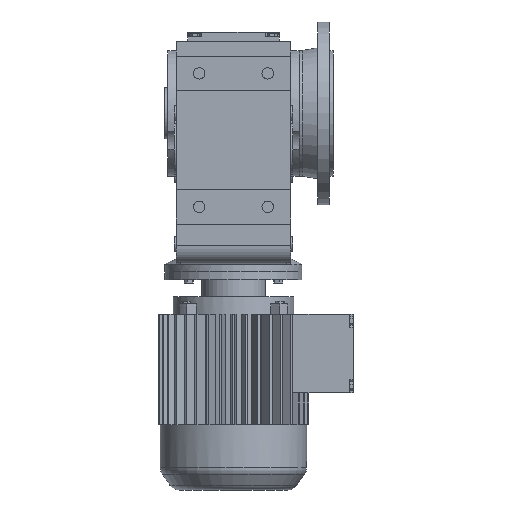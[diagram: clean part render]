
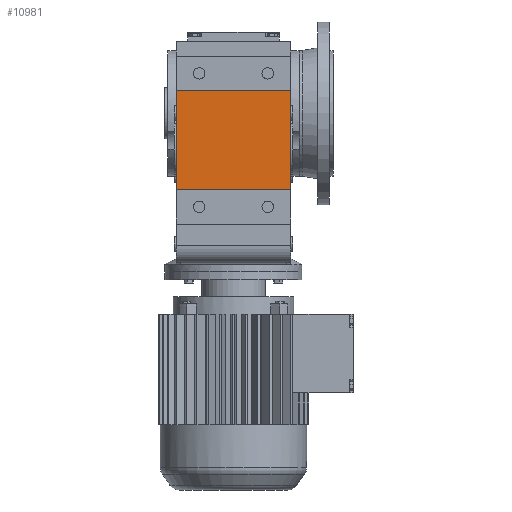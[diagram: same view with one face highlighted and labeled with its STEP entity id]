
A CAD part, front view. The second image highlights one B-rep face of the part: STEP entity #10981.
In plain terms, the highlighted planar face has unit normal (0, -1, 0).
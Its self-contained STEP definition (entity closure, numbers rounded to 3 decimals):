
#854 = PLANE('',#855);
#855 = AXIS2_PLACEMENT_3D('',#856,#857,#858);
#856 = CARTESIAN_POINT('',(-50.,-80.5,-116.05));
#857 = DIRECTION('',(-1.,0.,0.));
#858 = DIRECTION('',(0.,0.,1.));
#5276 = VERTEX_POINT('',#5277);
#5277 = CARTESIAN_POINT('',(-50.,-96.5,-67.));
#5291 = PLANE('',#5292);
#5292 = AXIS2_PLACEMENT_3D('',#5293,#5294,#5295);
#5293 = CARTESIAN_POINT('',(-50.,-96.5,-67.));
#5294 = DIRECTION('',(0.,0.,1.));
#5295 = DIRECTION('',(1.,0.,0.));
#5303 = EDGE_CURVE('',#5304,#5276,#5306,.T.);
#5304 = VERTEX_POINT('',#5305);
#5305 = CARTESIAN_POINT('',(-50.,-96.5,20.));
#5306 = SURFACE_CURVE('',#5307,(#5311,#5318),.PCURVE_S1.);
#5307 = LINE('',#5308,#5309);
#5308 = CARTESIAN_POINT('',(-50.,-96.5,20.));
#5309 = VECTOR('',#5310,1.);
#5310 = DIRECTION('',(0.,0.,-1.));
#5311 = PCURVE('',#854,#5312);
#5312 = DEFINITIONAL_REPRESENTATION('',(#5313),#5317);
#5313 = LINE('',#5314,#5315);
#5314 = CARTESIAN_POINT('',(136.05,-16.));
#5315 = VECTOR('',#5316,1.);
#5316 = DIRECTION('',(-1.,0.));
#5317 = ( GEOMETRIC_REPRESENTATION_CONTEXT(2) 
PARAMETRIC_REPRESENTATION_CONTEXT() REPRESENTATION_CONTEXT('2D SPACE',''
  ) );
#5318 = PCURVE('',#5319,#5324);
#5319 = PLANE('',#5320);
#5320 = AXIS2_PLACEMENT_3D('',#5321,#5322,#5323);
#5321 = CARTESIAN_POINT('',(-50.,-96.5,20.));
#5322 = DIRECTION('',(0.,-1.,0.));
#5323 = DIRECTION('',(0.,0.,-1.));
#5324 = DEFINITIONAL_REPRESENTATION('',(#5325),#5329);
#5325 = LINE('',#5326,#5327);
#5326 = CARTESIAN_POINT('',(0.,0.));
#5327 = VECTOR('',#5328,1.);
#5328 = DIRECTION('',(1.,0.));
#5329 = ( GEOMETRIC_REPRESENTATION_CONTEXT(2) 
PARAMETRIC_REPRESENTATION_CONTEXT() REPRESENTATION_CONTEXT('2D SPACE',''
  ) );
#5347 = PLANE('',#5348);
#5348 = AXIS2_PLACEMENT_3D('',#5349,#5350,#5351);
#5349 = CARTESIAN_POINT('',(-50.,-96.5,20.));
#5350 = DIRECTION('',(0.,0.,-1.));
#5351 = DIRECTION('',(-1.,0.,0.));
#9878 = PLANE('',#9879);
#9879 = AXIS2_PLACEMENT_3D('',#9880,#9881,#9882);
#9880 = CARTESIAN_POINT('',(50.,-80.5,-116.05));
#9881 = DIRECTION('',(-1.,0.,0.));
#9882 = DIRECTION('',(0.,0.,1.));
#10270 = VERTEX_POINT('',#10271);
#10271 = CARTESIAN_POINT('',(50.,-96.5,-67.));
#10292 = EDGE_CURVE('',#5276,#10270,#10293,.T.);
#10293 = SURFACE_CURVE('',#10294,(#10298,#10305),.PCURVE_S1.);
#10294 = LINE('',#10295,#10296);
#10295 = CARTESIAN_POINT('',(-50.,-96.5,-67.));
#10296 = VECTOR('',#10297,1.);
#10297 = DIRECTION('',(1.,0.,0.));
#10298 = PCURVE('',#5291,#10299);
#10299 = DEFINITIONAL_REPRESENTATION('',(#10300),#10304);
#10300 = LINE('',#10301,#10302);
#10301 = CARTESIAN_POINT('',(0.,0.));
#10302 = VECTOR('',#10303,1.);
#10303 = DIRECTION('',(1.,0.));
#10304 = ( GEOMETRIC_REPRESENTATION_CONTEXT(2) 
PARAMETRIC_REPRESENTATION_CONTEXT() REPRESENTATION_CONTEXT('2D SPACE',''
  ) );
#10305 = PCURVE('',#5319,#10306);
#10306 = DEFINITIONAL_REPRESENTATION('',(#10307),#10311);
#10307 = LINE('',#10308,#10309);
#10308 = CARTESIAN_POINT('',(87.,0.));
#10309 = VECTOR('',#10310,1.);
#10310 = DIRECTION('',(0.,1.));
#10311 = ( GEOMETRIC_REPRESENTATION_CONTEXT(2) 
PARAMETRIC_REPRESENTATION_CONTEXT() REPRESENTATION_CONTEXT('2D SPACE',''
  ) );
#10981 = ADVANCED_FACE('',(#10982),#5319,.T.);
#10982 = FACE_BOUND('',#10983,.T.);
#10983 = EDGE_LOOP('',(#10984,#10985,#11008,#11029));
#10984 = ORIENTED_EDGE('',*,*,#10292,.T.);
#10985 = ORIENTED_EDGE('',*,*,#10986,.F.);
#10986 = EDGE_CURVE('',#10987,#10270,#10989,.T.);
#10987 = VERTEX_POINT('',#10988);
#10988 = CARTESIAN_POINT('',(50.,-96.5,20.));
#10989 = SURFACE_CURVE('',#10990,(#10994,#11001),.PCURVE_S1.);
#10990 = LINE('',#10991,#10992);
#10991 = CARTESIAN_POINT('',(50.,-96.5,20.));
#10992 = VECTOR('',#10993,1.);
#10993 = DIRECTION('',(0.,0.,-1.));
#10994 = PCURVE('',#5319,#10995);
#10995 = DEFINITIONAL_REPRESENTATION('',(#10996),#11000);
#10996 = LINE('',#10997,#10998);
#10997 = CARTESIAN_POINT('',(0.,100.));
#10998 = VECTOR('',#10999,1.);
#10999 = DIRECTION('',(1.,0.));
#11000 = ( GEOMETRIC_REPRESENTATION_CONTEXT(2) 
PARAMETRIC_REPRESENTATION_CONTEXT() REPRESENTATION_CONTEXT('2D SPACE',''
  ) );
#11001 = PCURVE('',#9878,#11002);
#11002 = DEFINITIONAL_REPRESENTATION('',(#11003),#11007);
#11003 = LINE('',#11004,#11005);
#11004 = CARTESIAN_POINT('',(136.05,-16.));
#11005 = VECTOR('',#11006,1.);
#11006 = DIRECTION('',(-1.,0.));
#11007 = ( GEOMETRIC_REPRESENTATION_CONTEXT(2) 
PARAMETRIC_REPRESENTATION_CONTEXT() REPRESENTATION_CONTEXT('2D SPACE',''
  ) );
#11008 = ORIENTED_EDGE('',*,*,#11009,.F.);
#11009 = EDGE_CURVE('',#5304,#10987,#11010,.T.);
#11010 = SURFACE_CURVE('',#11011,(#11015,#11022),.PCURVE_S1.);
#11011 = LINE('',#11012,#11013);
#11012 = CARTESIAN_POINT('',(-50.,-96.5,20.));
#11013 = VECTOR('',#11014,1.);
#11014 = DIRECTION('',(1.,0.,0.));
#11015 = PCURVE('',#5319,#11016);
#11016 = DEFINITIONAL_REPRESENTATION('',(#11017),#11021);
#11017 = LINE('',#11018,#11019);
#11018 = CARTESIAN_POINT('',(0.,0.));
#11019 = VECTOR('',#11020,1.);
#11020 = DIRECTION('',(0.,1.));
#11021 = ( GEOMETRIC_REPRESENTATION_CONTEXT(2) 
PARAMETRIC_REPRESENTATION_CONTEXT() REPRESENTATION_CONTEXT('2D SPACE',''
  ) );
#11022 = PCURVE('',#5347,#11023);
#11023 = DEFINITIONAL_REPRESENTATION('',(#11024),#11028);
#11024 = LINE('',#11025,#11026);
#11025 = CARTESIAN_POINT('',(0.,0.));
#11026 = VECTOR('',#11027,1.);
#11027 = DIRECTION('',(-1.,0.));
#11028 = ( GEOMETRIC_REPRESENTATION_CONTEXT(2) 
PARAMETRIC_REPRESENTATION_CONTEXT() REPRESENTATION_CONTEXT('2D SPACE',''
  ) );
#11029 = ORIENTED_EDGE('',*,*,#5303,.T.);
